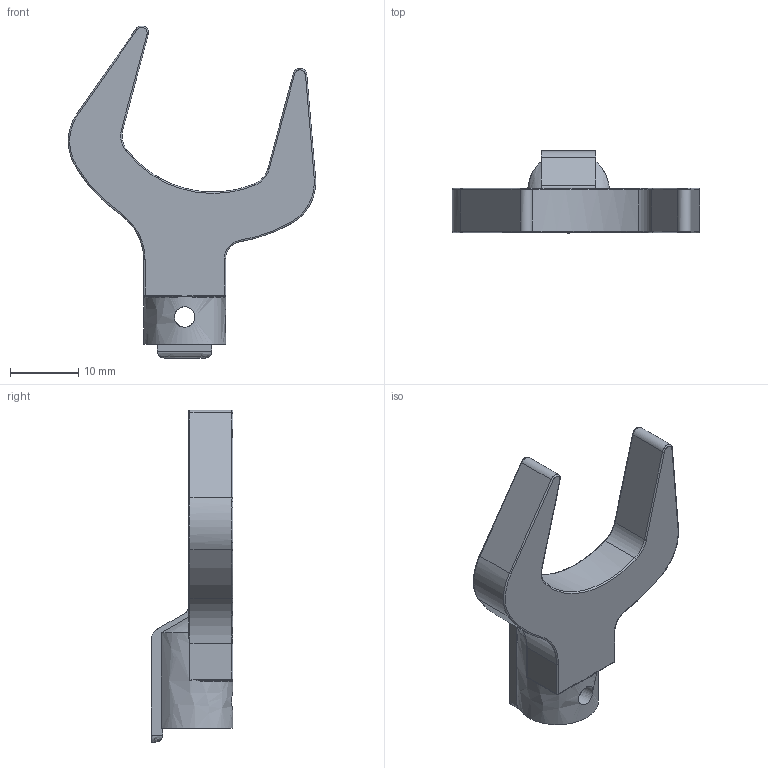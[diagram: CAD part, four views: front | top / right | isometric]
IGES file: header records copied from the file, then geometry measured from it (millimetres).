
Global section: file name: SH8DX22; native system: Autodesk Inventor 2016; preprocessor: unknown; author: Q600; date: 20151029.200358; units: millimetre
Bounding box: 36.21 x 12 x 48.6 mm (x, y, z)
Volume: 4335.6 mm3; surface area: 2770.2 mm2
Topology: 1 solids, 1 shells, 94 faces, 236 edges, 137 vertices
Faces by surface type: bspline 94
